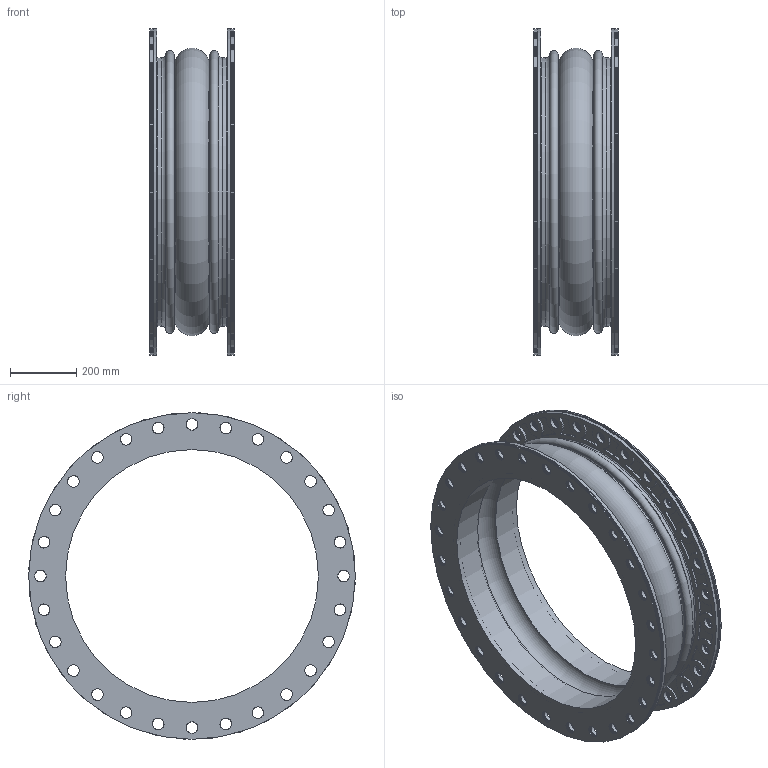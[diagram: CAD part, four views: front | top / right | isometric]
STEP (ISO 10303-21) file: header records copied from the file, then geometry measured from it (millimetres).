
FILE_DESCRIPTION((''),'2;1');
FILE_NAME('N:\StockJoints-ADSK, IGES, STEP, PNG\STEP\451 30x10.stp','2013-05-23T14:31:59',('mquog'),(''),'Autodesk Inventor 2011','Autodesk Inventor 2011','');
FILE_SCHEMA(('AUTOMOTIVE_DESIGN { 1 0 10303 214 1 1 1 1 }'));
Length unit declared in the file: inch
Products named in the file (3): 451 30x10; Style451 30x10; 30DI450BUR150
Assembly tree (3 placements, depth 2):
  451 30x10
    Style451 30x10
    30DI450BUR150  x2
Bounding box: 254 x 984.25 x 984.25 mm (x, y, z)
Volume: 23995692.3 mm3; surface area: 19718317.7 mm2
Topology: 14 solids, 14 shells, 1212 faces, 3282 edges, 2164 vertices
Faces by surface type: cylinder 1060, plane 94, torus 52, cone 6
Full cylindrical faces by diameter (mm): 34.925 x448, 762 x2, 768.35 x4, 774.7 x8, 776.732 x4, 778.764 x4, 780.796 x4, 782.828 x4, 786.003 x2, 793.75 x2, 981.075 x14, 984.25 x4
Entity records: 27323 total; most frequent: DIRECTION 5096, CARTESIAN_POINT 4225, ORIENTED_EDGE 3634, AXIS2_PLACEMENT_3D 2408, EDGE_LOOP 2290, EDGE_CURVE 1817, VERTEX_POINT 1537, CIRCLE 1537
